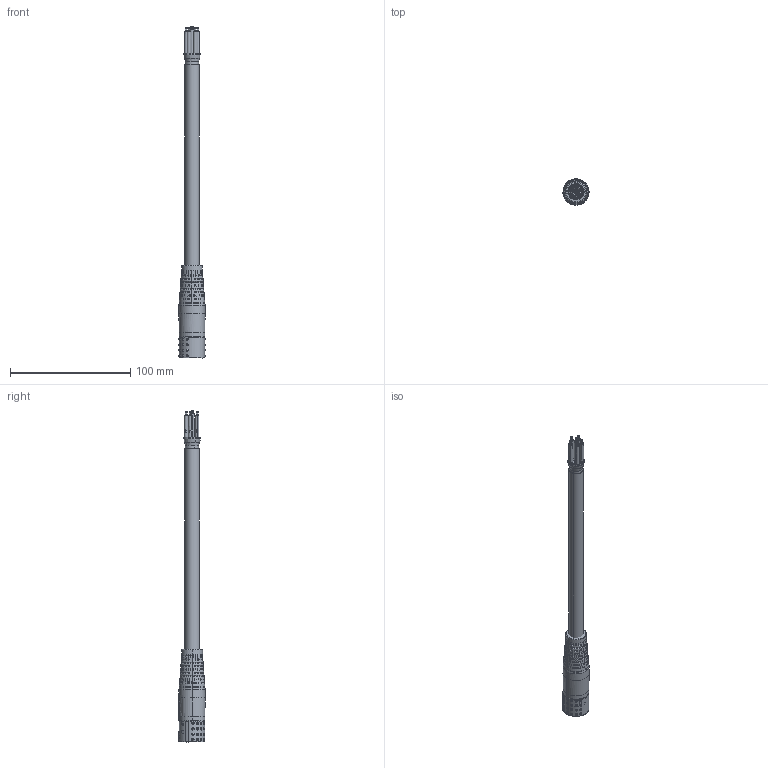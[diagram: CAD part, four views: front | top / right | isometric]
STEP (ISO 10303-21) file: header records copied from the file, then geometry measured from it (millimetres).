
FILE_DESCRIPTION (( 'STEP AP214' ), '1' );
FILE_NAME ('W-TEC 15M GLATT-BU.STEP', '2021-06-29T15:05:10', ( '' ), ( '' ), 'SwSTEP 2.0', 'SolidWorks 2021', '' );
FILE_SCHEMA (( 'AUTOMOTIVE_DESIGN' ));
Length unit declared in the file: millimetre
Products named in the file (1): W-TEC 15M GLATT-BU
Bounding box: 21.76 x 21.83 x 275.65 mm (x, y, z)
Surface area: 20314.5 mm2 (no closed solid volume)
Topology: 0 solids, 6 shells, 2029 faces, 4882 edges, 3191 vertices
Faces by surface type: cylinder 894, plane 653, bspline 435, cone 45, torus 2
Entity records: 108240 total; most frequent: CARTESIAN_POINT 40989, ORIENTED_EDGE 9555, DIRECTION 8889, EDGE_CURVE 4828, AXIS2_PLACEMENT_3D 3685, VERTEX_POINT 3191, EDGE_LOOP 2437, CIRCLE 2090
